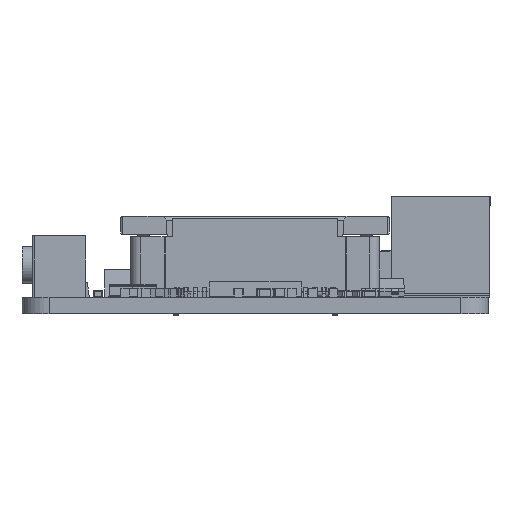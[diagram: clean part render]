
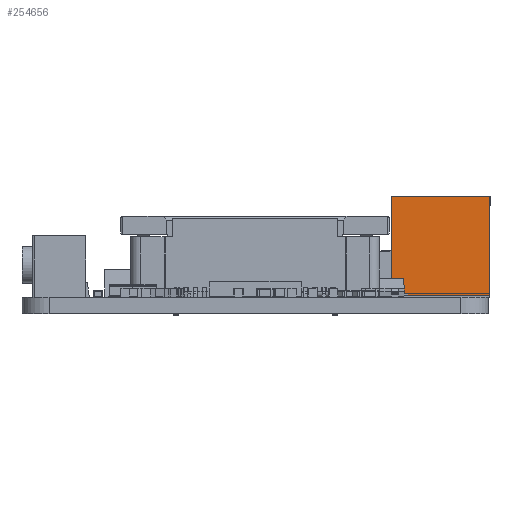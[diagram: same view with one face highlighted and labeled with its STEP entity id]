
A CAD part, left-side view. The second image highlights one B-rep face of the part: STEP entity #254656.
In plain terms, the highlighted planar face has unit normal (-1, 0, 0).
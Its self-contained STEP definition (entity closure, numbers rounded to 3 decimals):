
#254487 = PLANE('',#254488);
#254488 = AXIS2_PLACEMENT_3D('',#254489,#254490,#254491);
#254489 = CARTESIAN_POINT('',(-0.432,-2.692,0.));
#254490 = DIRECTION('',(0.,1.,0.));
#254491 = DIRECTION('',(1.,0.,0.));
#254515 = PLANE('',#254516);
#254516 = AXIS2_PLACEMENT_3D('',#254517,#254518,#254519);
#254517 = CARTESIAN_POINT('',(0.432,-2.692,5.4));
#254518 = DIRECTION('',(0.,0.,-1.));
#254519 = DIRECTION('',(-1.,0.,0.));
#254543 = PLANE('',#254544);
#254544 = AXIS2_PLACEMENT_3D('',#254545,#254546,#254547);
#254545 = CARTESIAN_POINT('',(0.432,2.692,0.));
#254546 = DIRECTION('',(0.,-1.,0.));
#254547 = DIRECTION('',(-1.,0.,0.));
#254569 = PLANE('',#254570);
#254570 = AXIS2_PLACEMENT_3D('',#254571,#254572,#254573);
#254571 = CARTESIAN_POINT('',(0.432,-2.692,0.));
#254572 = DIRECTION('',(0.,0.,-1.));
#254573 = DIRECTION('',(-1.,0.,0.));
#254586 = VERTEX_POINT('',#254587);
#254587 = CARTESIAN_POINT('',(-0.432,2.692,5.4));
#254608 = EDGE_CURVE('',#254609,#254586,#254611,.T.);
#254609 = VERTEX_POINT('',#254610);
#254610 = CARTESIAN_POINT('',(-0.432,2.692,0.));
#254611 = SURFACE_CURVE('',#254612,(#254616,#254623),.PCURVE_S1.);
#254612 = LINE('',#254613,#254614);
#254613 = CARTESIAN_POINT('',(-0.432,2.692,0.));
#254614 = VECTOR('',#254615,1.);
#254615 = DIRECTION('',(0.,0.,1.));
#254616 = PCURVE('',#254543,#254617);
#254617 = DEFINITIONAL_REPRESENTATION('',(#254618),#254622);
#254618 = LINE('',#254619,#254620);
#254619 = CARTESIAN_POINT('',(0.864,0.));
#254620 = VECTOR('',#254621,1.);
#254621 = DIRECTION('',(0.,-1.));
#254622 = ( GEOMETRIC_REPRESENTATION_CONTEXT(2) 
PARAMETRIC_REPRESENTATION_CONTEXT() REPRESENTATION_CONTEXT('2D SPACE',''
  ) );
#254623 = PCURVE('',#254624,#254629);
#254624 = PLANE('',#254625);
#254625 = AXIS2_PLACEMENT_3D('',#254626,#254627,#254628);
#254626 = CARTESIAN_POINT('',(-0.432,2.692,0.));
#254627 = DIRECTION('',(1.,0.,0.));
#254628 = DIRECTION('',(0.,-1.,0.));
#254629 = DEFINITIONAL_REPRESENTATION('',(#254630),#254634);
#254630 = LINE('',#254631,#254632);
#254631 = CARTESIAN_POINT('',(0.,0.));
#254632 = VECTOR('',#254633,1.);
#254633 = DIRECTION('',(0.,-1.));
#254634 = ( GEOMETRIC_REPRESENTATION_CONTEXT(2) 
PARAMETRIC_REPRESENTATION_CONTEXT() REPRESENTATION_CONTEXT('2D SPACE',''
  ) );
#254656 = ADVANCED_FACE('',(#254657),#254624,.F.);
#254657 = FACE_BOUND('',#254658,.F.);
#254658 = EDGE_LOOP('',(#254659,#254660,#254683,#254706));
#254659 = ORIENTED_EDGE('',*,*,#254608,.T.);
#254660 = ORIENTED_EDGE('',*,*,#254661,.T.);
#254661 = EDGE_CURVE('',#254586,#254662,#254664,.T.);
#254662 = VERTEX_POINT('',#254663);
#254663 = CARTESIAN_POINT('',(-0.432,-2.692,5.4));
#254664 = SURFACE_CURVE('',#254665,(#254669,#254676),.PCURVE_S1.);
#254665 = LINE('',#254666,#254667);
#254666 = CARTESIAN_POINT('',(-0.432,2.692,5.4));
#254667 = VECTOR('',#254668,1.);
#254668 = DIRECTION('',(0.,-1.,0.));
#254669 = PCURVE('',#254624,#254670);
#254670 = DEFINITIONAL_REPRESENTATION('',(#254671),#254675);
#254671 = LINE('',#254672,#254673);
#254672 = CARTESIAN_POINT('',(0.,-5.4));
#254673 = VECTOR('',#254674,1.);
#254674 = DIRECTION('',(1.,0.));
#254675 = ( GEOMETRIC_REPRESENTATION_CONTEXT(2) 
PARAMETRIC_REPRESENTATION_CONTEXT() REPRESENTATION_CONTEXT('2D SPACE',''
  ) );
#254676 = PCURVE('',#254515,#254677);
#254677 = DEFINITIONAL_REPRESENTATION('',(#254678),#254682);
#254678 = LINE('',#254679,#254680);
#254679 = CARTESIAN_POINT('',(0.864,5.385));
#254680 = VECTOR('',#254681,1.);
#254681 = DIRECTION('',(0.,-1.));
#254682 = ( GEOMETRIC_REPRESENTATION_CONTEXT(2) 
PARAMETRIC_REPRESENTATION_CONTEXT() REPRESENTATION_CONTEXT('2D SPACE',''
  ) );
#254683 = ORIENTED_EDGE('',*,*,#254684,.F.);
#254684 = EDGE_CURVE('',#254685,#254662,#254687,.T.);
#254685 = VERTEX_POINT('',#254686);
#254686 = CARTESIAN_POINT('',(-0.432,-2.692,0.));
#254687 = SURFACE_CURVE('',#254688,(#254692,#254699),.PCURVE_S1.);
#254688 = LINE('',#254689,#254690);
#254689 = CARTESIAN_POINT('',(-0.432,-2.692,0.));
#254690 = VECTOR('',#254691,1.);
#254691 = DIRECTION('',(0.,0.,1.));
#254692 = PCURVE('',#254624,#254693);
#254693 = DEFINITIONAL_REPRESENTATION('',(#254694),#254698);
#254694 = LINE('',#254695,#254696);
#254695 = CARTESIAN_POINT('',(5.385,0.));
#254696 = VECTOR('',#254697,1.);
#254697 = DIRECTION('',(0.,-1.));
#254698 = ( GEOMETRIC_REPRESENTATION_CONTEXT(2) 
PARAMETRIC_REPRESENTATION_CONTEXT() REPRESENTATION_CONTEXT('2D SPACE',''
  ) );
#254699 = PCURVE('',#254487,#254700);
#254700 = DEFINITIONAL_REPRESENTATION('',(#254701),#254705);
#254701 = LINE('',#254702,#254703);
#254702 = CARTESIAN_POINT('',(0.,0.));
#254703 = VECTOR('',#254704,1.);
#254704 = DIRECTION('',(0.,-1.));
#254705 = ( GEOMETRIC_REPRESENTATION_CONTEXT(2) 
PARAMETRIC_REPRESENTATION_CONTEXT() REPRESENTATION_CONTEXT('2D SPACE',''
  ) );
#254706 = ORIENTED_EDGE('',*,*,#254707,.F.);
#254707 = EDGE_CURVE('',#254609,#254685,#254708,.T.);
#254708 = SURFACE_CURVE('',#254709,(#254713,#254720),.PCURVE_S1.);
#254709 = LINE('',#254710,#254711);
#254710 = CARTESIAN_POINT('',(-0.432,2.692,0.));
#254711 = VECTOR('',#254712,1.);
#254712 = DIRECTION('',(0.,-1.,0.));
#254713 = PCURVE('',#254624,#254714);
#254714 = DEFINITIONAL_REPRESENTATION('',(#254715),#254719);
#254715 = LINE('',#254716,#254717);
#254716 = CARTESIAN_POINT('',(0.,0.));
#254717 = VECTOR('',#254718,1.);
#254718 = DIRECTION('',(1.,0.));
#254719 = ( GEOMETRIC_REPRESENTATION_CONTEXT(2) 
PARAMETRIC_REPRESENTATION_CONTEXT() REPRESENTATION_CONTEXT('2D SPACE',''
  ) );
#254720 = PCURVE('',#254569,#254721);
#254721 = DEFINITIONAL_REPRESENTATION('',(#254722),#254726);
#254722 = LINE('',#254723,#254724);
#254723 = CARTESIAN_POINT('',(0.864,5.385));
#254724 = VECTOR('',#254725,1.);
#254725 = DIRECTION('',(0.,-1.));
#254726 = ( GEOMETRIC_REPRESENTATION_CONTEXT(2) 
PARAMETRIC_REPRESENTATION_CONTEXT() REPRESENTATION_CONTEXT('2D SPACE',''
  ) );
